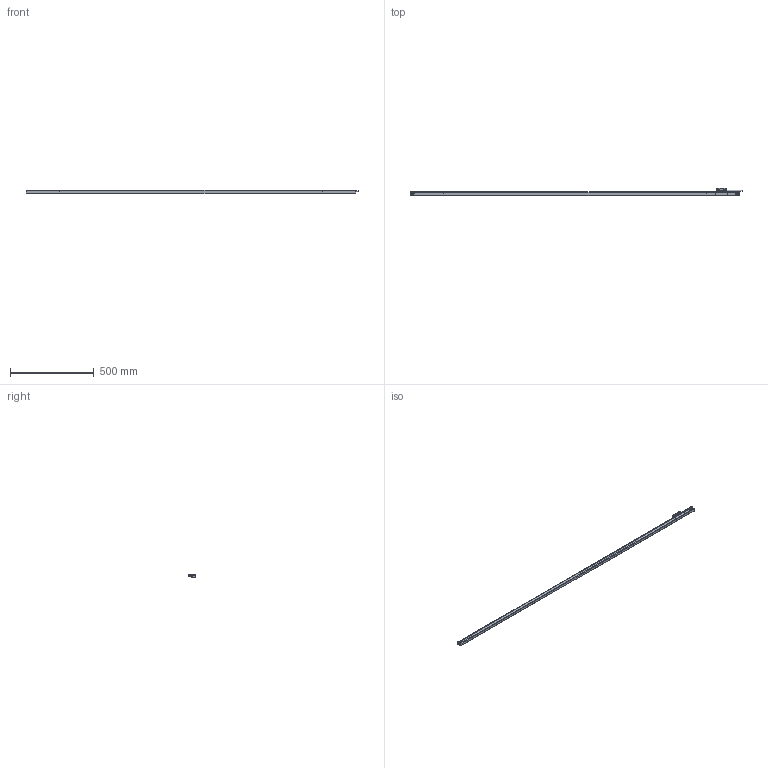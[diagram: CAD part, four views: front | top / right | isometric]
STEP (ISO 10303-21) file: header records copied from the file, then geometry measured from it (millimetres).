
FILE_DESCRIPTION( ( 'STEP AP203' ), '1' );
FILE_NAME( 'N:/Engineering/CAD_Solid/Magnescale/GBER/GB-185ER_SR138-185R.stp', '2013-03-14T10:05:16', ( ' ' ), ( ' ' ), 'XStep 1.0', ' ', ' ' );
FILE_SCHEMA( ( 'CONFIG_CONTROL_DESIGN) ( )' ) );
Length unit declared in the file: metre
Products named in the file (1): 1
Bounding box: 1982.5 x 42 x 21 mm (x, y, z)
Surface area: 187066.5 mm2 (no closed solid volume)
Topology: 0 solids, 250 shells, 250 faces, 1363 edges, 1337 vertices
Faces by surface type: plane 161, cylinder 70, torus 10, cone 9
Full cylindrical faces by diameter (mm): 4 x6, 4.8 x1, 5 x2, 5.8 x1, 6 x1, 9.8 x2, 10 x2
Entity records: 13225 total; most frequent: CARTESIAN_POINT 2913, DIRECTION 2222, ORIENTED_EDGE 1331, EDGE_CURVE 1331, VERTEX_POINT 1331, LINE 942, VECTOR 942, AXIS2_PLACEMENT_3D 640
